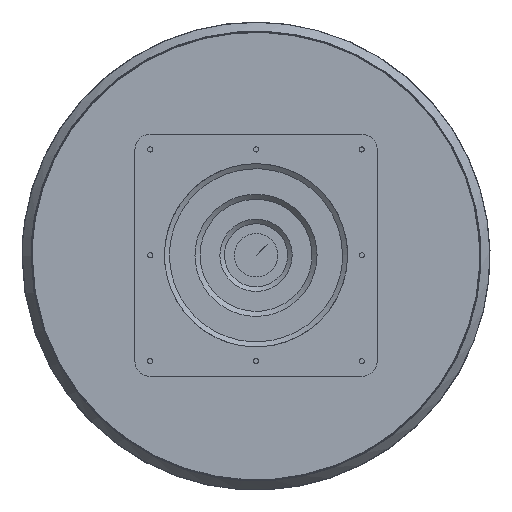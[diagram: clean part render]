
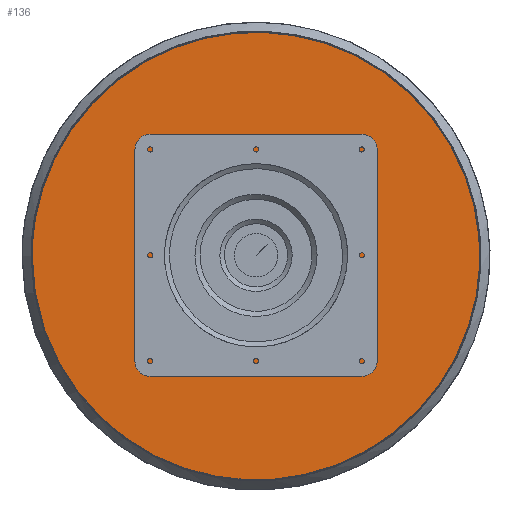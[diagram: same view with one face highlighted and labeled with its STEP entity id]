
A CAD part, top view. The second image highlights one B-rep face of the part: STEP entity #136.
In plain terms, the highlighted free-form (B-spline) face has degree [1, 2] with [2, 9] control points.
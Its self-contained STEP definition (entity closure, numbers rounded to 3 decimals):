
#136=ADVANCED_FACE('',(#201),#953,.T.);
#201=FACE_OUTER_BOUND('',#284,.T.);
#284=EDGE_LOOP('',(#451,#452,#453));
#451=ORIENTED_EDGE('',*,*,#665,.T.);
#452=ORIENTED_EDGE('',*,*,#644,.F.);
#453=ORIENTED_EDGE('',*,*,#644,.T.);
#644=EDGE_CURVE('',#881,#902,#820,.T.);
#665=EDGE_CURVE('',#902,#902,#767,.T.);
#767=(
BOUNDED_CURVE()
B_SPLINE_CURVE(2,(#2145,#2146,#2147,#2148,#2149,#2150,#2151,#2152,#2153),
 .UNSPECIFIED.,.T.,.F.)
B_SPLINE_CURVE_WITH_KNOTS((3,2,2,2,3),(0.,358.509,717.018,
1075.527,1434.036),.UNSPECIFIED.)
CURVE()
GEOMETRIC_REPRESENTATION_ITEM()
RATIONAL_B_SPLINE_CURVE((1.,0.707,1.,0.707,1.,0.707,
1.,0.707,1.))
REPRESENTATION_ITEM('')
);
#820=B_SPLINE_CURVE_WITH_KNOTS('',1,(#2103,#2104),.UNSPECIFIED.,.F.,.F.,
(2,2),(-219.88,0.),.UNSPECIFIED.);
#881=VERTEX_POINT('',#2081);
#902=VERTEX_POINT('',#2102);
#953=(
BOUNDED_SURFACE()
B_SPLINE_SURFACE(1,2,((#1721,#1722,#1723,#1724,#1725,#1726,#1727,#1728,
#1729),(#1730,#1731,#1732,#1733,#1734,#1735,#1736,#1737,#1738)),
 .UNSPECIFIED.,.F.,.F.,.F.)
B_SPLINE_SURFACE_WITH_KNOTS((2,2),(3,2,2,2,3),(-219.88,0.),(0.,358.509,
717.018,1075.527,1434.036),.UNSPECIFIED.)
GEOMETRIC_REPRESENTATION_ITEM()
RATIONAL_B_SPLINE_SURFACE(((1.,0.707,1.,0.707,1.,
0.707,1.,0.707,1.),(1.,0.707,1.,0.707,
1.,0.707,1.,0.707,1.)))
REPRESENTATION_ITEM('')
SURFACE()
);
#1721=CARTESIAN_POINT('',(0.,0.,17.4));
#1722=CARTESIAN_POINT('',(0.,0.,17.4));
#1723=CARTESIAN_POINT('',(0.,0.,17.4));
#1724=CARTESIAN_POINT('',(0.,0.,17.4));
#1725=CARTESIAN_POINT('',(0.,0.,17.4));
#1726=CARTESIAN_POINT('',(0.,0.,17.4));
#1727=CARTESIAN_POINT('',(0.,0.,17.4));
#1728=CARTESIAN_POINT('',(0.,0.,17.4));
#1729=CARTESIAN_POINT('',(0.,0.,17.4));
#1730=CARTESIAN_POINT('',(-219.88,0.,17.4));
#1731=CARTESIAN_POINT('',(-219.88,-219.88,17.4));
#1732=CARTESIAN_POINT('',(0.,-219.88,17.4));
#1733=CARTESIAN_POINT('',(219.88,-219.88,17.4));
#1734=CARTESIAN_POINT('',(219.88,0.,17.4));
#1735=CARTESIAN_POINT('',(219.88,219.88,17.4));
#1736=CARTESIAN_POINT('',(0.,219.88,17.4));
#1737=CARTESIAN_POINT('',(-219.88,219.88,17.4));
#1738=CARTESIAN_POINT('',(-219.88,0.,17.4));
#2081=CARTESIAN_POINT('',(0.,0.,17.4));
#2102=CARTESIAN_POINT('',(-219.88,0.,17.4));
#2103=CARTESIAN_POINT('',(0.,0.,17.4));
#2104=CARTESIAN_POINT('',(-219.88,0.,17.4));
#2145=CARTESIAN_POINT('',(-219.88,0.,17.4));
#2146=CARTESIAN_POINT('',(-219.88,-219.88,17.4));
#2147=CARTESIAN_POINT('',(0.,-219.88,17.4));
#2148=CARTESIAN_POINT('',(219.88,-219.88,17.4));
#2149=CARTESIAN_POINT('',(219.88,0.,17.4));
#2150=CARTESIAN_POINT('',(219.88,219.88,17.4));
#2151=CARTESIAN_POINT('',(0.,219.88,17.4));
#2152=CARTESIAN_POINT('',(-219.88,219.88,17.4));
#2153=CARTESIAN_POINT('',(-219.88,0.,17.4));
